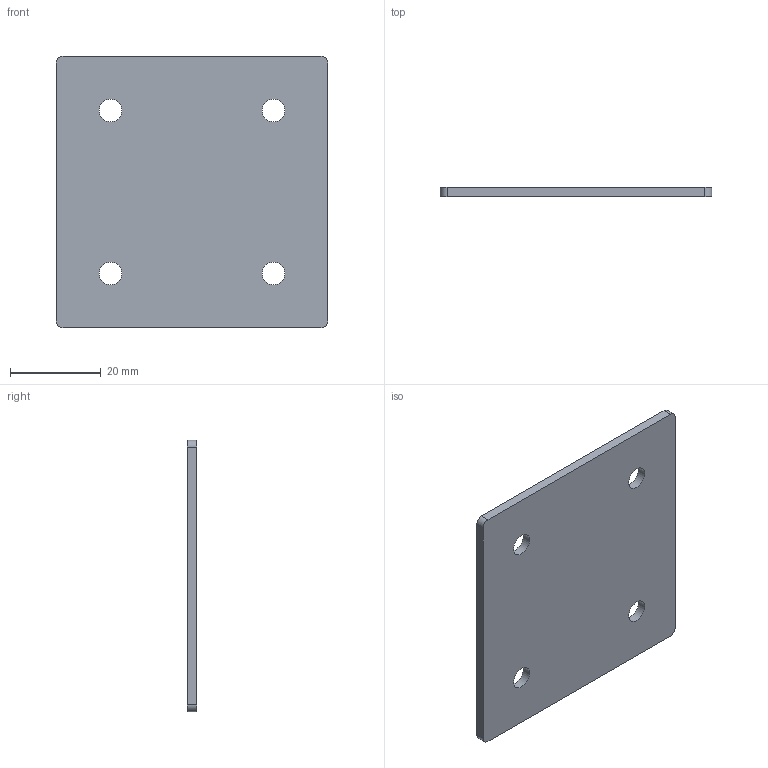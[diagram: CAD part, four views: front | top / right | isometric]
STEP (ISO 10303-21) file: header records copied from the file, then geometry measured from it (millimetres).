
FILE_DESCRIPTION(/* description */ (''),/* implementation_level */ '2;1');
FILE_NAME(/* name */ 'Pos149-1110 Cover 60 x 60-Aluminium-2st',/* time_stamp */ '2024-08-06T11:49:43+02:00',/* author */ (''),/* organization */ (''),/* preprocessor_version */ 'ST-DEVELOPER v16.5',/* originating_system */ 'HiCAD 2024 2901.2 Build 361',/* authorisation */ '');
FILE_SCHEMA (('AUTOMOTIVE_DESIGN { 1 0 10303 214 1 1 1 1 }'));
Length unit declared in the file: millimetre
Products named in the file (1): Pos149-1110 Cover 60 x 60-Aluminium-2st
Bounding box: 60 x 2 x 60 mm (x, y, z)
Volume: 7039.1 mm3; surface area: 7639.6 mm2
Topology: 1 solids, 1 shells, 14 faces, 40 edges, 28 vertices
Faces by surface type: cylinder 8, plane 6
Full cylindrical faces by diameter (mm): 5 x4
Entity records: 770 total; most frequent: DIRECTION 76, CARTESIAN_POINT 70, PRESENTATION_STYLE_ASSIGNMENT 65, COLOUR_RGB 65, DRAUGHTING_PRE_DEFINED_CURVE_FONT 64, CURVE_STYLE 64, OVER_RIDING_STYLED_ITEM 64, ORIENTED_EDGE 64
